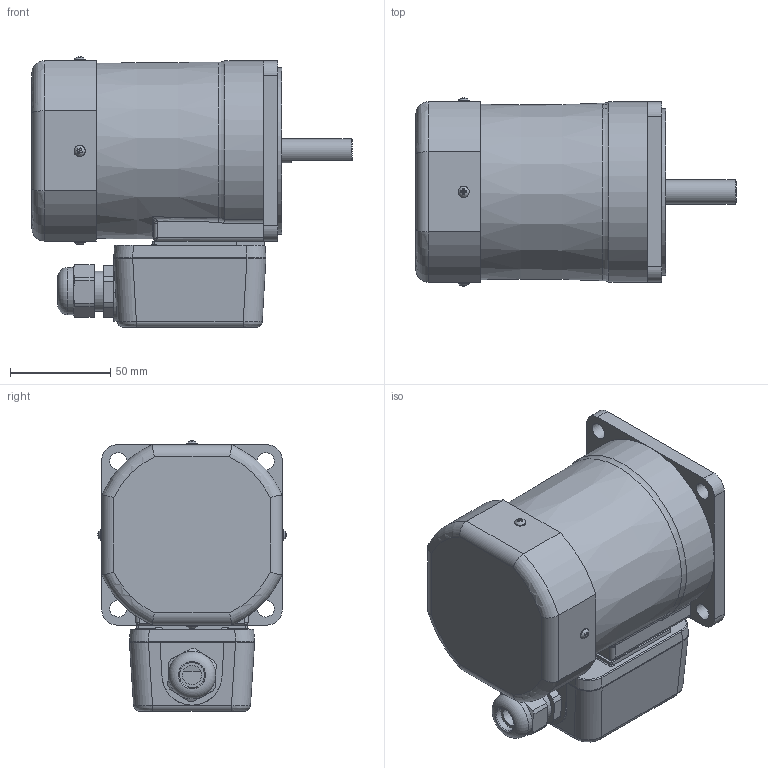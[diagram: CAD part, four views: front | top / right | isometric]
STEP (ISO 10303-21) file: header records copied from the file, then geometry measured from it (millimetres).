
FILE_DESCRIPTION(/* description */ (''),/* implementation_level */ '2;1');
FILE_NAME(/* name */ 'E:\도면작업\2016\0704) 미주향 SG 도면\3D MOTOR\TERMINAL BOX TYPE\INDUCTION TERMINAL BOX\SG9I60D_-T.stp',/* time_stamp */ '2017-01-23T19:05:45+09:00',/* author */ ('jy-jung'),/* organization */ (''),/* preprocessor_version */ 'ST-DEVELOPER v15.6',/* originating_system */ 'Autodesk Inventor 2015',/* authorisation */ '');
FILE_SCHEMA (('AUTOMOTIVE_DESIGN { 1 0 10303 214 3 1 1 }'));
Length unit declared in the file: millimetre
Products named in the file (1): 부품2
Bounding box: 159.8 x 93.89 x 134.95 mm (x, y, z)
Volume: 998261.9 mm3; surface area: 79442.4 mm2
Topology: 1 solids, 13 shells, 469 faces, 1168 edges, 743 vertices
Faces by surface type: plane 252, cylinder 124, bspline 54, torus 30, cone 9
Full cylindrical faces by diameter (mm): 2.55 x2, 3 x4, 3.5 x4, 5.6 x8, 6.3 x4, 8.5 x4, 12 x1, 12.5 x1, 15 x1, 20 x2, 21 x1, 23.6 x1, 40 x1, 83 x1
Entity records: 16018 total; most frequent: CARTESIAN_POINT 5047, ORIENTED_EDGE 2170, DIRECTION 2038, EDGE_CURVE 1085, AXIS2_PLACEMENT_3D 730, VERTEX_POINT 728, LINE 578, VECTOR 578
